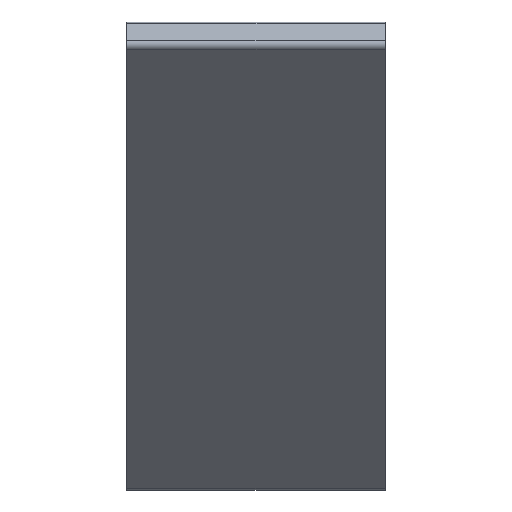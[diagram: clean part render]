
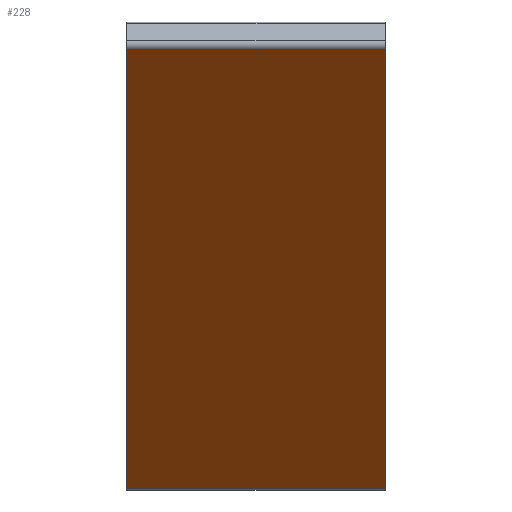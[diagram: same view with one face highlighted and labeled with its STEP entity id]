
A CAD part, left-side view. The second image highlights one B-rep face of the part: STEP entity #228.
In plain terms, the highlighted planar face has unit normal (-0.707, 0, -0.707).
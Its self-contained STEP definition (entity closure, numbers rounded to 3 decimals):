
#33 = VERTEX_POINT ( 'NONE', #2519 ) ;
#205 = DIRECTION ( 'NONE',  ( 0.707, 0., -0.707 ) ) ;
#228 = ADVANCED_FACE ( 'NONE', ( #383 ), #2022, .F. ) ;
#383 = FACE_OUTER_BOUND ( 'NONE', #1299, .T. ) ;
#422 = EDGE_CURVE ( 'NONE', #33, #2468, #2382, .T. ) ;
#561 = EDGE_CURVE ( 'NONE', #2580, #2290, #1769, .T. ) ;
#565 = CARTESIAN_POINT ( 'NONE',  ( 24.125, 33., -69.625 ) ) ;
#714 = DIRECTION ( 'NONE',  ( 0., 1., 0. ) ) ;
#771 = ORIENTED_EDGE ( 'NONE', *, *, #1971, .T. ) ;
#809 = CARTESIAN_POINT ( 'NONE',  ( 24.832, 36.52, -70.332 ) ) ;
#1035 = AXIS2_PLACEMENT_3D ( 'NONE', #1210, #2033, #205 ) ;
#1063 = CARTESIAN_POINT ( 'NONE',  ( -52.847, -3.52, 7.347 ) ) ;
#1195 = ORIENTED_EDGE ( 'NONE', *, *, #422, .T. ) ;
#1210 = CARTESIAN_POINT ( 'NONE',  ( 24.832, 33., -70.332 ) ) ;
#1299 = EDGE_LOOP ( 'NONE', ( #771, #1195, #2414, #2118 ) ) ;
#1378 = DIRECTION ( 'NONE',  ( 0., -1., 0. ) ) ;
#1397 = VECTOR ( 'NONE', #2044, 1000. ) ;
#1485 = EDGE_CURVE ( 'NONE', #2580, #2468, #2082, .T. ) ;
#1656 = CARTESIAN_POINT ( 'NONE',  ( 24.125, -3.52, -69.625 ) ) ;
#1769 = LINE ( 'NONE', #2181, #2077 ) ;
#1832 = LINE ( 'NONE', #809, #1397 ) ;
#1909 = DIRECTION ( 'NONE',  ( 0.707, 0., -0.707 ) ) ;
#1971 = EDGE_CURVE ( 'NONE', #2290, #33, #1832, .T. ) ;
#1991 = VECTOR ( 'NONE', #1909, 1000. ) ;
#2010 = CARTESIAN_POINT ( 'NONE',  ( -43.793, 36.52, -1.707 ) ) ;
#2022 = PLANE ( 'NONE',  #1035 ) ;
#2033 = DIRECTION ( 'NONE',  ( 0.707, 0., 0.707 ) ) ;
#2044 = DIRECTION ( 'NONE',  ( 0.707, 0., -0.707 ) ) ;
#2077 = VECTOR ( 'NONE', #714, 1000. ) ;
#2082 = LINE ( 'NONE', #1063, #1991 ) ;
#2088 = CARTESIAN_POINT ( 'NONE',  ( -43.793, -3.52, -1.707 ) ) ;
#2118 = ORIENTED_EDGE ( 'NONE', *, *, #561, .T. ) ;
#2136 = VECTOR ( 'NONE', #1378, 1000. ) ;
#2181 = CARTESIAN_POINT ( 'NONE',  ( -43.793, 33., -1.707 ) ) ;
#2290 = VERTEX_POINT ( 'NONE', #2010 ) ;
#2382 = LINE ( 'NONE', #565, #2136 ) ;
#2414 = ORIENTED_EDGE ( 'NONE', *, *, #1485, .F. ) ;
#2468 = VERTEX_POINT ( 'NONE', #1656 ) ;
#2519 = CARTESIAN_POINT ( 'NONE',  ( 24.125, 36.52, -69.625 ) ) ;
#2580 = VERTEX_POINT ( 'NONE', #2088 ) ;
